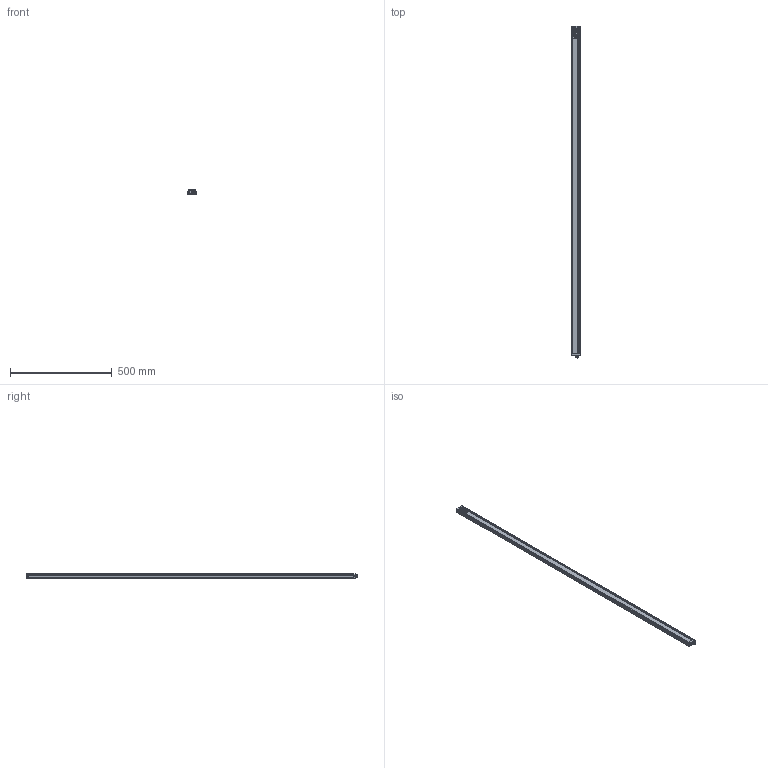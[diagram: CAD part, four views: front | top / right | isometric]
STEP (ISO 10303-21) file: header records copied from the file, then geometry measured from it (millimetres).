
FILE_DESCRIPTION(/* description */ (''),/* implementation_level */ '2;1');
FILE_NAME(/* name */ 'C:\Users\andre\SynologyDrive\Optoscan\Libreria Componenti\00 - Barriere\Barriera sorgente\Argo_1600_RX.stp',/* time_stamp */ '2021-04-22T12:16:43+02:00',/* author */ ('andre'),/* organization */ (''),/* preprocessor_version */ 'ST-DEVELOPER v18',/* originating_system */ 'Autodesk Inventor 2020',/* authorisation */ '');
FILE_SCHEMA (('AUTOMOTIVE_DESIGN { 1 0 10303 214 3 1 1 }'));
Length unit declared in the file: millimetre
Products named in the file (1): Argo_1600_RX
Bounding box: 40.5 x 1633.3 x 20.75 mm (x, y, z)
Volume: 322715.1 mm3; surface area: 426864.4 mm2
Topology: 1 solids, 1 shells, 692 faces, 1898 edges, 1217 vertices
Faces by surface type: plane 319, cylinder 195, bspline 94, torus 70, cone 8, sphere 6
Full cylindrical faces by diameter (mm): 1 x4, 2.459 x4, 2.5 x4, 3 x4, 3.5 x4, 5.5 x4, 8 x1, 10.5 x2, 11.75 x9, 15.7 x1, 17.5 x1
Entity records: 28165 total; most frequent: CARTESIAN_POINT 10195, ORIENTED_EDGE 3778, DIRECTION 3387, EDGE_CURVE 1889, VERTEX_POINT 1217, AXIS2_PLACEMENT_3D 1183, LINE 1021, VECTOR 1021
